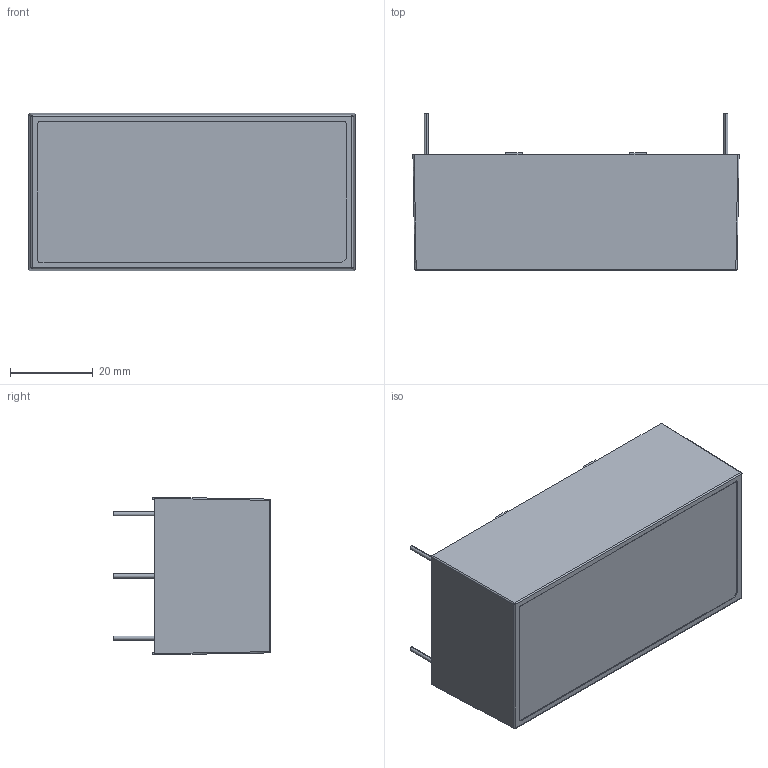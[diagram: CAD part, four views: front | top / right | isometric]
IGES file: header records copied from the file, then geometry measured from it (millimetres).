
Start section: SolidWorks IGES file using analytic representation for surfaces
Global section: file name: C:\Users\dcook\Desktop\KENT\CAD Models for Dave to clean\CAD Models for Dave to clean\ECL25-E\ECL25-E.IGS; native system: SolidWorks 2012; preprocessor: SolidWorks 2012; author: dcook; date: 120112.091559; units: millimetre
Bounding box: 78.74 x 37.95 x 38.1 mm (x, y, z)
Surface area: 31985.8 mm2 (no closed solid volume)
Topology: 0 solids, 0 shells, 266 faces, 2100 edges, 2095 vertices
Faces by surface type: bspline 217, revolution 49
